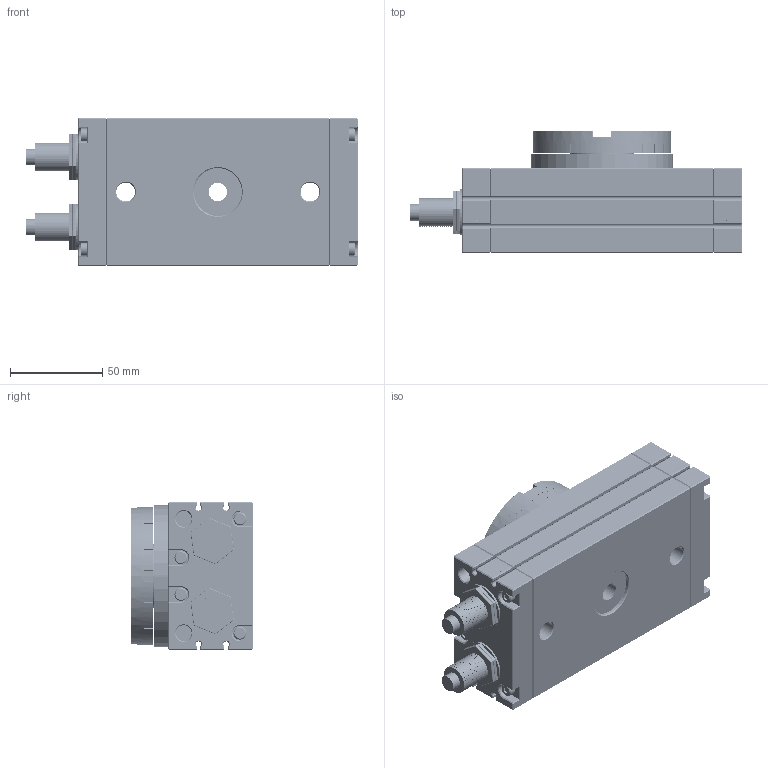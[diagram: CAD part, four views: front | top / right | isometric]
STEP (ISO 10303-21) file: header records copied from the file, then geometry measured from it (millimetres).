
FILE_DESCRIPTION (( 'STEP AP203' ), '1' );
FILE_NAME ('GTB 50.STEP', '2013-05-06T07:40:42', ( 'Christophe Gaillard' ), ( 'SGA' ), 'SwSTEP 2.0', 'SolidWorks 2010', '' );
FILE_SCHEMA (( 'CONFIG_CONTROL_DESIGN' ));
Products named in the file (11): Pièce B GTB 50_Default; Amortisseur RTB 50_Default; Disque RTB 50_Default; RTB 50 corp_Default; GTB 50; Vis pièce A et B RTB 50_Default; Petite vis GTB 50_Default; Butée en caoutchouc GTB 50_Default; Boulon RTB 50_Default; Vis corp 50_Default; Pièce A GTB 50_Default
Assembly tree (40 placements, depth 2):
  GTB 50
    Pièce B GTB 50_Default
    Vis corp 50_Default  x12
    Petite vis GTB 50_Default  x8
    Amortisseur RTB 50_Default  x2
    Vis pièce A et B RTB 50_Default  x8
    Butée en caoutchouc GTB 50_Default  x2
    Pièce A GTB 50_Default
    RTB 50 corp_Default
    Boulon RTB 50_Default  x4
    Disque RTB 50_Default
Bounding box: 180.1 x 66 x 80 mm (x, y, z)
Volume: 605209.5 mm3; surface area: 115442.8 mm2
Topology: 40 solids, 40 shells, 27324 faces, 62097 edges, 38070 vertices
Faces by surface type: plane 12473, cylinder 9741, cone 3715, bspline 594, torus 585, sphere 216
Entity records: 209296 total; most frequent: CARTESIAN_POINT 66398, DIRECTION 30349, ORIENTED_EDGE 28526, EDGE_CURVE 14263, AXIS2_PLACEMENT_3D 11588, VERTEX_POINT 8529, VECTOR 7173, LINE 7173
